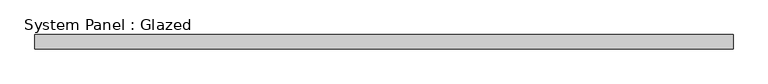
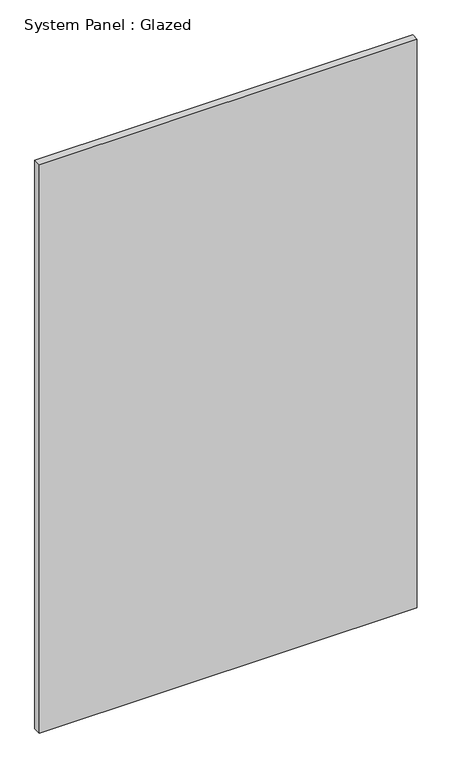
"""IFC4 building model written with IfcOpenShell, lengths in millimetres: plate geometry, System Panel : Glazed."""

import ifcopenshell
import ifcopenshell.guid

model = None  # the IFC model being written
_history = None  # IfcOwnerHistory: only IFC2X3 demands one
_inside = {}  # id of a spatial element -> (the spatial element, [elements in it])
_under = {}  # id of a project, library or spatial element -> (it, [spatial elements below it])
_declared = {}  # id of a project -> (the project, [libraries it declares])
_typed = {}  # id of a type object -> (the type object, [elements of that type])
_made_of = {}  # id of a material, layer set ... -> (it, [elements and type objects made of it])


def new_model(schema):
    """Start an empty IFC model of exactly this schema.

    Asked for "IFC4X3", IfcOpenShell would pick the latest addendum, in which some entities
    have other attributes; the version numbers below select the first issue.
    IFC2X3 requires an IfcOwnerHistory on every rooted entity: one is made here for all.
    """
    global model, _history
    if schema == "IFC4X3":
        model = ifcopenshell.file(schema_version=(4, 3, 0, 0))
    else:
        model = ifcopenshell.file(schema=schema)
    _inside.clear()
    _under.clear()
    _declared.clear()
    _typed.clear()
    _made_of.clear()
    _history = None
    if model.schema == "IFC2X3":
        org = make("IfcOrganization", Name="unknown")
        user = make(
            "IfcPersonAndOrganization",
            ThePerson=make("IfcPerson", FamilyName="unknown"),
            TheOrganization=org,
        )
        app = make(
            "IfcApplication",
            ApplicationDeveloper=org,
            Version="unknown",
            ApplicationFullName="unknown",
            ApplicationIdentifier="unknown",
        )
        _history = make(
            "IfcOwnerHistory",
            OwningUser=user,
            OwningApplication=app,
            ChangeAction="ADDED",
            CreationDate=0,
        )
    return model


def make(cls, **values):
    """One entity of the class cls with the attributes given. An attribute that is None is left unset."""
    return model.create_entity(
        cls, **{name: value for name, value in values.items() if value is not None}
    )


def rooted(cls, **values):
    """An entity with a GlobalId (a new one), such as an element, a storey or a relation."""
    return make(cls, GlobalId=ifcopenshell.guid.new(), OwnerHistory=_history, **values)


def si_unit(unit_type, name, prefix=None):
    """IfcSIUnit, for example si_unit("LENGTHUNIT", "METRE", prefix="MILLI")."""
    return make("IfcSIUnit", UnitType=unit_type, Prefix=prefix, Name=name)


def assignment(units):
    """IfcUnitAssignment: the units of a project."""
    return None if units is None else make("IfcUnitAssignment", Units=units)


def point(xyz):
    """IfcCartesianPoint."""
    return None if xyz is None else make("IfcCartesianPoint", Coordinates=xyz)


def direction(xyz):
    """IfcDirection."""
    return None if xyz is None else make("IfcDirection", DirectionRatios=xyz)


def frame(location, z_axis=None, x_axis=None):
    """IfcAxis2Placement3D, a coordinate frame: its origin and axes. An axis left out is left unset."""
    return make(
        "IfcAxis2Placement3D",
        Location=point(location),
        Axis=direction(z_axis),
        RefDirection=direction(x_axis),
    )


def origin():
    """The frame at (0, 0, 0) with its axes left unset."""
    return frame((0.0, 0.0, 0.0))


def origin_with_axes():
    """The frame at (0, 0, 0) with the z axis (0, 0, 1) and the x axis (1, 0, 0) written out."""
    return frame((0.0, 0.0, 0.0), z_axis=(0.0, 0.0, 1.0), x_axis=(1.0, 0.0, 0.0))


def place(relative_to, where):
    """IfcLocalPlacement: puts the frame where relative to a parent placement (None: the world)."""
    return make(
        "IfcLocalPlacement", PlacementRelTo=relative_to, RelativePlacement=where
    )


def context(
    kind, dimensions, precision=None, world=None, true_north=None, identifier=None
):
    """IfcGeometricRepresentationContext, for example the 3D "Model" context."""
    return make(
        "IfcGeometricRepresentationContext",
        ContextIdentifier=identifier,
        ContextType=kind,
        CoordinateSpaceDimension=dimensions,
        Precision=precision,
        WorldCoordinateSystem=world,
        TrueNorth=true_north,
    )


def project(units=None, contexts=None):
    """IfcProject with its units and contexts."""
    return rooted(
        "IfcProject",
        Name="project",
        RepresentationContexts=contexts,
        UnitsInContext=assignment(units),
    )


def spatial(cls, under=None, at=None, **own):
    """A site, building, storey or space (cls), placed at a placement, below another one or the project."""
    s = rooted(cls, ObjectPlacement=at, **own)
    if under is not None:
        _under.setdefault(under.id(), (under, []))[1].append(s)
    return s


def polyline(points):
    """IfcPolyline through the points."""
    return make("IfcPolyline", Points=[point(p) for p in points])


def outline(outer, holes=None, kind="AREA"):
    """IfcArbitraryClosedProfileDef: a profile drawn as a closed curve; with holes, ...WithVoids."""
    if holes is None:
        return make("IfcArbitraryClosedProfileDef", ProfileType=kind, OuterCurve=outer)
    return make(
        "IfcArbitraryProfileDefWithVoids",
        ProfileType=kind,
        OuterCurve=outer,
        InnerCurves=holes,
    )


def extrude(swept, where, along, depth):
    """IfcExtrudedAreaSolid: the profile swept, set in the frame where, extruded along a direction by depth."""
    return make(
        "IfcExtrudedAreaSolid",
        SweptArea=swept,
        Position=where,
        ExtrudedDirection=direction(along),
        Depth=depth,
    )


def shape(context_of_items, identifier, shape_type, items):
    """IfcShapeRepresentation: the items that make up one representation, for example the "Body"."""
    return make(
        "IfcShapeRepresentation",
        ContextOfItems=context_of_items,
        RepresentationIdentifier=identifier,
        RepresentationType=shape_type,
        Items=items,
    )


def source(mapping_origin, context_of_items, identifier, shape_type, items):
    """IfcRepresentationMap: a shape defined once, which mapped items show again and again."""
    return make(
        "IfcRepresentationMap",
        MappingOrigin=mapping_origin,
        MappedRepresentation=shape(context_of_items, identifier, shape_type, items),
    )


def transform(
    local_origin,
    x_axis=None,
    y_axis=None,
    z_axis=None,
    scale=None,
    scale2=None,
    scale3=None,
    uniform=True,
):
    """IfcCartesianTransformationOperator3D, or its non-uniform kind. x_axis, y_axis, z_axis: its Axis1, 2, 3."""
    if uniform:
        return make(
            "IfcCartesianTransformationOperator3D",
            Axis1=direction(x_axis),
            Axis2=direction(y_axis),
            LocalOrigin=point(local_origin),
            Scale=scale,
            Axis3=direction(z_axis),
        )
    return make(
        "IfcCartesianTransformationOperator3DnonUniform",
        Axis1=direction(x_axis),
        Axis2=direction(y_axis),
        LocalOrigin=point(local_origin),
        Scale=scale,
        Axis3=direction(z_axis),
        Scale2=scale2,
        Scale3=scale3,
    )


def mapped(mapping_source, mapping_target):
    """IfcMappedItem: shows the shape of a source again, moved by a transform."""
    return make(
        "IfcMappedItem", MappingSource=mapping_source, MappingTarget=mapping_target
    )


def made_of(thing, what):
    """Note that an element or type object is made of a material, layer set ...; save() writes the relation."""
    if what is not None:
        _made_of.setdefault(what.id(), (what, []))[1].append(thing)
    return thing


def element(
    cls,
    number,
    at=None,
    inside=None,
    cuts=None,
    type_object=None,
    material=None,
    context=None,
    identifier="Body",
    shape_type=None,
    held_by="IfcProductDefinitionShape",
    body=None,
    shapes=None,
    **own,
):
    """One element of the class cls, such as IfcWall. Its Tag is "e" and its number.

    at: its placement. inside: the storey or other place that contains it. cuts: it is an
    opening in that element (IfcRelVoidsElement). A single representation is given by context,
    identifier, shape_type and body (its items); several are given by shapes. held_by: the class
    of the entity that holds the representations. save() writes the other relations.
    """
    e = rooted(cls, Tag="e%d" % number, ObjectPlacement=at, **own)
    if body is not None:
        shapes = [shape(context, identifier, shape_type, body)]
    if shapes is not None:
        e.Representation = make(held_by, Representations=shapes)
    if inside is not None:
        _inside.setdefault(inside.id(), (inside, []))[1].append(e)
    if cuts is not None:
        rooted(
            "IfcRelVoidsElement", RelatingBuildingElement=cuts, RelatedOpeningElement=e
        )
    if type_object is not None:
        _typed.setdefault(type_object.id(), (type_object, []))[1].append(e)
    return made_of(e, material)


def aggregate(whole, parts):
    """IfcRelAggregates: a whole, such as a stair, and the parts it consists of."""
    return rooted("IfcRelAggregates", RelatingObject=whole, RelatedObjects=parts)


def save(model, path):
    """Write the relations noted so far, then the file.

    IfcRelAggregates (storeys below a building ...), IfcRelContainedInSpatialStructure (elements
    in a storey), IfcRelDefinesByType, IfcRelAssociatesMaterial and IfcRelDeclares: one each for
    every whole, place, type object, material and project.
    """
    for whole, parts in _under.values():
        aggregate(whole, parts)
    for where, things in _inside.values():
        rooted(
            "IfcRelContainedInSpatialStructure",
            RelatedElements=things,
            RelatingStructure=where,
        )
    for kind, things in _typed.values():
        rooted("IfcRelDefinesByType", RelatedObjects=things, RelatingType=kind)
    for what, things in _made_of.values():
        rooted("IfcRelAssociatesMaterial", RelatedObjects=things, RelatingMaterial=what)
    for by, libraries in _declared.values():
        rooted("IfcRelDeclares", RelatingContext=by, RelatedDefinitions=libraries)
    model.write(path)


def system_panel_glazed_b8e40a07(model_context):
    return source(origin(), model_context, "Body", "SweptSolid", [
        extrude(outline(polyline([(618.17875, 24.5), (-618.17875, 24.5), (-618.17875, 49.5), (618.17875, 49.5), (618.17875, 24.5)])), origin_with_axes(), (0.0, 0.0, 1.0), 1965.2),
    ])


if __name__ == "__main__":
    model = new_model("IFC4")
    model_context = context("Model", 3, world=origin())
    ifc_project = project(units=[si_unit("LENGTHUNIT", "METRE", prefix="MILLI")], contexts=[model_context])
    site = spatial("IfcSite", under=ifc_project)
    building = spatial("IfcBuilding", under=site)
    placement = place(None, origin())
    system_panel_glazed_shape = system_panel_glazed_b8e40a07(model_context)
    element("IfcPlate", 1, ObjectType="System Panel : Glazed", at=placement, inside=building, context=model_context, shape_type="MappedRepresentation", body=[
        mapped(system_panel_glazed_shape, transform((0.0, 0.0, 0.0), x_axis=(1.0, 0.0, 0.0), y_axis=(0.0, 1.0, 0.0), z_axis=(0.0, 0.0, 1.0))),
    ])
    save(model, "model.ifc")
